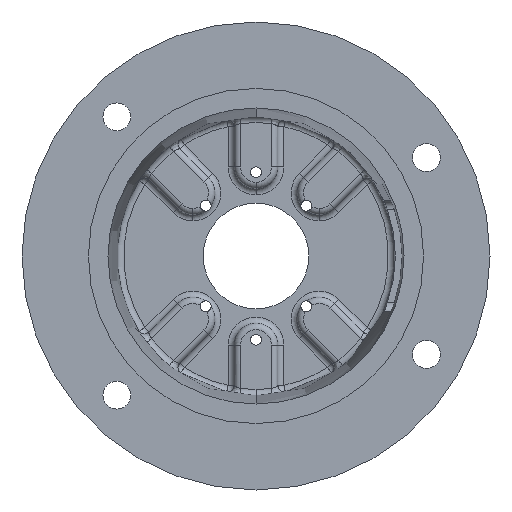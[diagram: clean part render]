
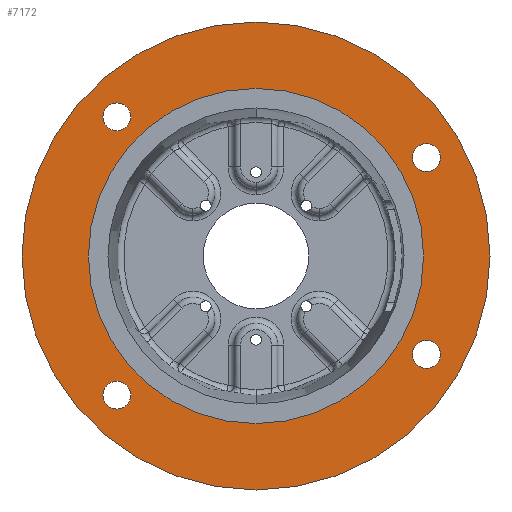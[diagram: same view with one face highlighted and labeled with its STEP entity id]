
A CAD part, front view. The second image highlights one B-rep face of the part: STEP entity #7172.
In plain terms, the highlighted planar face has unit normal (0, -1, 0).
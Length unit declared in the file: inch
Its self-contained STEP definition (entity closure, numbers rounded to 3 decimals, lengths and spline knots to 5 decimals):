
#200 = EDGE_LOOP ( 'NONE', ( #1072, #11422 ) ) ;
#768 = EDGE_CURVE ( 'NONE', #945, #1303, #5482, .T. ) ;
#862 = DIRECTION ( 'NONE',  ( 0., 0., 1. ) ) ;
#945 = VERTEX_POINT ( 'NONE', #1968 ) ;
#1025 = DIRECTION ( 'NONE',  ( 0., 0., -1. ) ) ;
#1072 = ORIENTED_EDGE ( 'NONE', *, *, #13466, .F. ) ;
#1131 = CARTESIAN_POINT ( 'NONE',  ( 4.00537, 0., 2.3125 ) ) ;
#1303 = VERTEX_POINT ( 'NONE', #6366 ) ;
#1518 = CARTESIAN_POINT ( 'NONE',  ( 0., 0., 0. ) ) ;
#1571 = DIRECTION ( 'NONE',  ( 0., -1., 0. ) ) ;
#1620 = VERTEX_POINT ( 'NONE', #9704 ) ;
#1636 = AXIS2_PLACEMENT_3D ( 'NONE', #9878, #3413, #10930 ) ;
#1726 = FACE_BOUND ( 'NONE', #4293, .T. ) ;
#1968 = CARTESIAN_POINT ( 'NONE',  ( 0., 0., -5.5 ) ) ;
#2220 = CIRCLE ( 'NONE', #10676, 0.32812 ) ;
#2245 = DIRECTION ( 'NONE',  ( 0., 0., -1. ) ) ;
#2256 = EDGE_CURVE ( 'NONE', #3346, #1620, #2220, .T. ) ;
#2536 = DIRECTION ( 'NONE',  ( 0., -1., 0. ) ) ;
#2621 = DIRECTION ( 'NONE',  ( 0., 0., -1. ) ) ;
#2816 = PLANE ( 'NONE',  #3458 ) ;
#2835 = ORIENTED_EDGE ( 'NONE', *, *, #2256, .F. ) ;
#2843 = DIRECTION ( 'NONE',  ( 0., -1., 0. ) ) ;
#2872 = ORIENTED_EDGE ( 'NONE', *, *, #768, .T. ) ;
#2966 = VERTEX_POINT ( 'NONE', #4961 ) ;
#3152 = VERTEX_POINT ( 'NONE', #13521 ) ;
#3302 = AXIS2_PLACEMENT_3D ( 'NONE', #8062, #1571, #9159 ) ;
#3321 = ORIENTED_EDGE ( 'NONE', *, *, #9181, .F. ) ;
#3346 = VERTEX_POINT ( 'NONE', #13048 ) ;
#3360 = CIRCLE ( 'NONE', #13756, 0.32812 ) ;
#3413 = DIRECTION ( 'NONE',  ( 0., -1., 0. ) ) ;
#3458 = AXIS2_PLACEMENT_3D ( 'NONE', #13768, #7352, #862 ) ;
#3667 = ORIENTED_EDGE ( 'NONE', *, *, #12805, .F. ) ;
#3829 = CARTESIAN_POINT ( 'NONE',  ( 0., 0., 0. ) ) ;
#4169 = AXIS2_PLACEMENT_3D ( 'NONE', #5150, #12657, #6227 ) ;
#4293 = EDGE_LOOP ( 'NONE', ( #5087, #3667 ) ) ;
#4396 = CIRCLE ( 'NONE', #7883, 3.9385 ) ;
#4596 = FACE_BOUND ( 'NONE', #5740, .T. ) ;
#4695 = ORIENTED_EDGE ( 'NONE', *, *, #5172, .F. ) ;
#4741 = CIRCLE ( 'NONE', #4169, 0.32812 ) ;
#4800 = AXIS2_PLACEMENT_3D ( 'NONE', #9058, #9015, #8959 ) ;
#4920 = DIRECTION ( 'NONE',  ( 0., 0., -1. ) ) ;
#4961 = CARTESIAN_POINT ( 'NONE',  ( -3.27037, 0., -2.94224 ) ) ;
#5068 = EDGE_CURVE ( 'NONE', #2966, #9859, #5079, .T. ) ;
#5079 = CIRCLE ( 'NONE', #13800, 0.32812 ) ;
#5087 = ORIENTED_EDGE ( 'NONE', *, *, #6492, .F. ) ;
#5150 = CARTESIAN_POINT ( 'NONE',  ( -3.27037, 0., -3.27037 ) ) ;
#5172 = EDGE_CURVE ( 'NONE', #9859, #2966, #4741, .T. ) ;
#5235 = VERTEX_POINT ( 'NONE', #10051 ) ;
#5387 = AXIS2_PLACEMENT_3D ( 'NONE', #9024, #2536, #10091 ) ;
#5482 = CIRCLE ( 'NONE', #4800, 5.5 ) ;
#5538 = DIRECTION ( 'NONE',  ( 0., -1., 0. ) ) ;
#5550 = VERTEX_POINT ( 'NONE', #12771 ) ;
#5679 = EDGE_LOOP ( 'NONE', ( #4695, #11741 ) ) ;
#5740 = EDGE_LOOP ( 'NONE', ( #10941, #3321 ) ) ;
#5934 = AXIS2_PLACEMENT_3D ( 'NONE', #1518, #9104, #2621 ) ;
#6068 = CARTESIAN_POINT ( 'NONE',  ( 4.00537, 0., 2.64062 ) ) ;
#6156 = EDGE_CURVE ( 'NONE', #1303, #945, #9326, .T. ) ;
#6227 = DIRECTION ( 'NONE',  ( 0., 0., -1. ) ) ;
#6366 = CARTESIAN_POINT ( 'NONE',  ( 0., 0., 5.5 ) ) ;
#6409 = CIRCLE ( 'NONE', #3302, 0.32812 ) ;
#6492 = EDGE_CURVE ( 'NONE', #5235, #5550, #4396, .T. ) ;
#6626 = AXIS2_PLACEMENT_3D ( 'NONE', #1131, #8717, #2245 ) ;
#6841 = CIRCLE ( 'NONE', #5934, 3.9385 ) ;
#7130 = EDGE_LOOP ( 'NONE', ( #2872, #10512 ) ) ;
#7172 = ADVANCED_FACE ( 'NONE', ( #4596, #7810, #13141, #7488, #1726, #12813 ), #2816, .F. ) ;
#7352 = DIRECTION ( 'NONE',  ( 0., 1., 0. ) ) ;
#7488 = FACE_BOUND ( 'NONE', #200, .T. ) ;
#7513 = DIRECTION ( 'NONE',  ( 0., -1., 0. ) ) ;
#7810 = FACE_BOUND ( 'NONE', #7834, .T. ) ;
#7834 = EDGE_LOOP ( 'NONE', ( #2835, #9920 ) ) ;
#7844 = CIRCLE ( 'NONE', #5387, 0.32812 ) ;
#7883 = AXIS2_PLACEMENT_3D ( 'NONE', #3829, #11347, #4920 ) ;
#8062 = CARTESIAN_POINT ( 'NONE',  ( 4.00537, 0., -2.3125 ) ) ;
#8140 = VERTEX_POINT ( 'NONE', #9465 ) ;
#8717 = DIRECTION ( 'NONE',  ( 0., -1., 0. ) ) ;
#8796 = EDGE_CURVE ( 'NONE', #1620, #3346, #6409, .T. ) ;
#8895 = VERTEX_POINT ( 'NONE', #6068 ) ;
#8959 = DIRECTION ( 'NONE',  ( 0., 0., -1. ) ) ;
#9015 = DIRECTION ( 'NONE',  ( 0., -1., 0. ) ) ;
#9024 = CARTESIAN_POINT ( 'NONE',  ( -3.27037, 0., 3.27037 ) ) ;
#9058 = CARTESIAN_POINT ( 'NONE',  ( 0., 0., 0. ) ) ;
#9104 = DIRECTION ( 'NONE',  ( 0., -1., 0. ) ) ;
#9159 = DIRECTION ( 'NONE',  ( 0., 0., -1. ) ) ;
#9181 = EDGE_CURVE ( 'NONE', #8895, #3152, #10174, .T. ) ;
#9326 = CIRCLE ( 'NONE', #1636, 5.5 ) ;
#9329 = CARTESIAN_POINT ( 'NONE',  ( -3.27037, 0., -3.27037 ) ) ;
#9465 = CARTESIAN_POINT ( 'NONE',  ( -3.27037, 0., 3.59849 ) ) ;
#9704 = CARTESIAN_POINT ( 'NONE',  ( 4.00537, 0., -1.98438 ) ) ;
#9859 = VERTEX_POINT ( 'NONE', #10686 ) ;
#9878 = CARTESIAN_POINT ( 'NONE',  ( 0., 0., 0. ) ) ;
#9920 = ORIENTED_EDGE ( 'NONE', *, *, #8796, .F. ) ;
#10051 = CARTESIAN_POINT ( 'NONE',  ( 0., 0., -3.9385 ) ) ;
#10091 = DIRECTION ( 'NONE',  ( 0., 0., -1. ) ) ;
#10174 = CIRCLE ( 'NONE', #6626, 0.32812 ) ;
#10384 = DIRECTION ( 'NONE',  ( 0., 0., -1. ) ) ;
#10512 = ORIENTED_EDGE ( 'NONE', *, *, #6156, .T. ) ;
#10645 = VERTEX_POINT ( 'NONE', #13865 ) ;
#10676 = AXIS2_PLACEMENT_3D ( 'NONE', #12110, #12091, #12061 ) ;
#10686 = CARTESIAN_POINT ( 'NONE',  ( -3.27037, 0., -3.59849 ) ) ;
#10930 = DIRECTION ( 'NONE',  ( 0., 0., -1. ) ) ;
#10941 = ORIENTED_EDGE ( 'NONE', *, *, #11694, .F. ) ;
#11347 = DIRECTION ( 'NONE',  ( 0., -1., 0. ) ) ;
#11422 = ORIENTED_EDGE ( 'NONE', *, *, #12297, .F. ) ;
#11694 = EDGE_CURVE ( 'NONE', #3152, #8895, #3360, .T. ) ;
#11741 = ORIENTED_EDGE ( 'NONE', *, *, #5068, .F. ) ;
#11982 = CARTESIAN_POINT ( 'NONE',  ( -3.27037, 0., 3.27037 ) ) ;
#12061 = DIRECTION ( 'NONE',  ( 0., 0., -1. ) ) ;
#12091 = DIRECTION ( 'NONE',  ( 0., -1., 0. ) ) ;
#12110 = CARTESIAN_POINT ( 'NONE',  ( 4.00537, 0., -2.3125 ) ) ;
#12297 = EDGE_CURVE ( 'NONE', #8140, #10645, #13030, .T. ) ;
#12657 = DIRECTION ( 'NONE',  ( 0., -1., 0. ) ) ;
#12771 = CARTESIAN_POINT ( 'NONE',  ( 0., 0., 3.9385 ) ) ;
#12805 = EDGE_CURVE ( 'NONE', #5550, #5235, #6841, .T. ) ;
#12813 = FACE_OUTER_BOUND ( 'NONE', #7130, .T. ) ;
#13030 = CIRCLE ( 'NONE', #13930, 0.32812 ) ;
#13036 = DIRECTION ( 'NONE',  ( 0., 0., -1. ) ) ;
#13048 = CARTESIAN_POINT ( 'NONE',  ( 4.00537, 0., -2.64063 ) ) ;
#13141 = FACE_BOUND ( 'NONE', #5679, .T. ) ;
#13466 = EDGE_CURVE ( 'NONE', #10645, #8140, #7844, .T. ) ;
#13521 = CARTESIAN_POINT ( 'NONE',  ( 4.00537, 0., 1.98437 ) ) ;
#13756 = AXIS2_PLACEMENT_3D ( 'NONE', #13918, #7513, #1025 ) ;
#13768 = CARTESIAN_POINT ( 'NONE',  ( -5.5, 0., 0. ) ) ;
#13800 = AXIS2_PLACEMENT_3D ( 'NONE', #9329, #2843, #10384 ) ;
#13865 = CARTESIAN_POINT ( 'NONE',  ( -3.27037, 0., 2.94224 ) ) ;
#13918 = CARTESIAN_POINT ( 'NONE',  ( 4.00537, 0., 2.3125 ) ) ;
#13930 = AXIS2_PLACEMENT_3D ( 'NONE', #11982, #5538, #13036 ) ;
